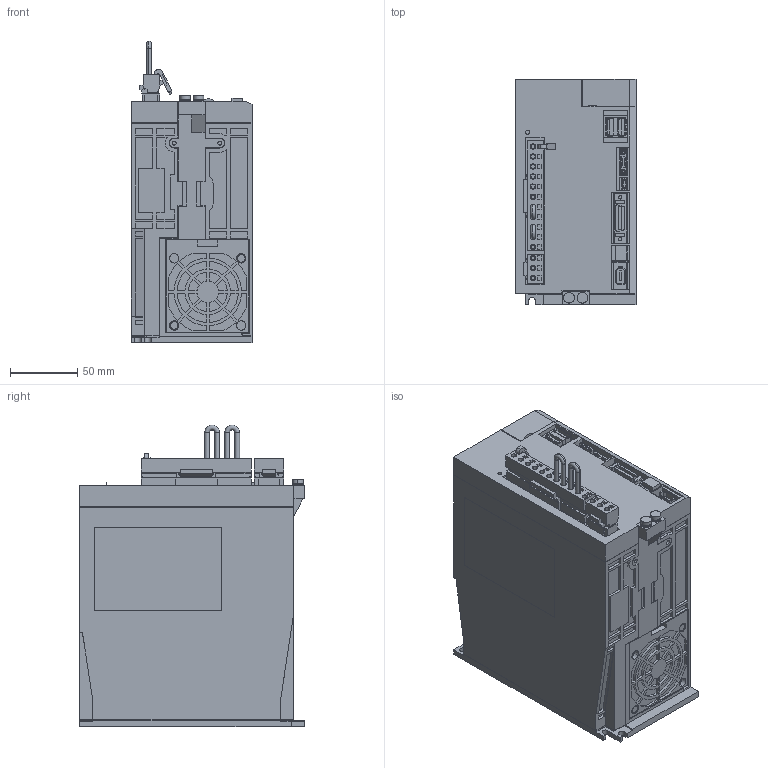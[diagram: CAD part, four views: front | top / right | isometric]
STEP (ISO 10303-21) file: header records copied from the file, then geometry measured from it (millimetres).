
FILE_DESCRIPTION (( 'STEP AP203' ), '1' );
FILE_NAME ('sgd7s_120a10a.STEP', '2014-03-06T04:28:26', ( '匠エンジニアリング山之内' ), ( 'TAKUMI-Engniaring' ), 'SwSTEP 2.0', 'SolidWorks 2006303', '' );
FILE_SCHEMA (( 'CONFIG_CONTROL_DESIGN' ));
Length unit declared in the file: millimetre
Products named in the file (10): sgd7s_120a10a_connector; sgd7s_120a10a_cover2; sgd7s_120a10a_connector_3; sgd7s_120a10a; sgd7s_120a10a_base; sgd7s_120a10a_connector_2; sgd7s_120a10a_pin; sgd7s_120a10a_cable; sgd7s_120a10a_connector_1; sgd7s_120a10a_cover
Assembly tree (11 placements, depth 3):
  sgd7s_120a10a
    sgd7s_120a10a_connector
      sgd7s_120a10a_pin
      sgd7s_120a10a_connector_2
      sgd7s_120a10a_cable  x2
    sgd7s_120a10a_cover2  x2
    sgd7s_120a10a_cover
    sgd7s_120a10a_base
    sgd7s_120a10a_connector_3
    sgd7s_120a10a_connector_1
Bounding box: 90.5 x 168 x 225 mm (x, y, z)
Volume: 2554046.6 mm3; surface area: 171760.6 mm2
Topology: 10 solids, 10 shells, 1987 faces, 5124 edges, 3382 vertices
Faces by surface type: plane 1736, cylinder 242, torus 4, cone 4, sphere 1
Entity records: 59692 total; most frequent: CARTESIAN_POINT 10341, ORIENTED_EDGE 10088, DIRECTION 9458, EDGE_CURVE 5044, VECTOR 4564, LINE 4564, VERTEX_POINT 3330, AXIS2_PLACEMENT_3D 2447
